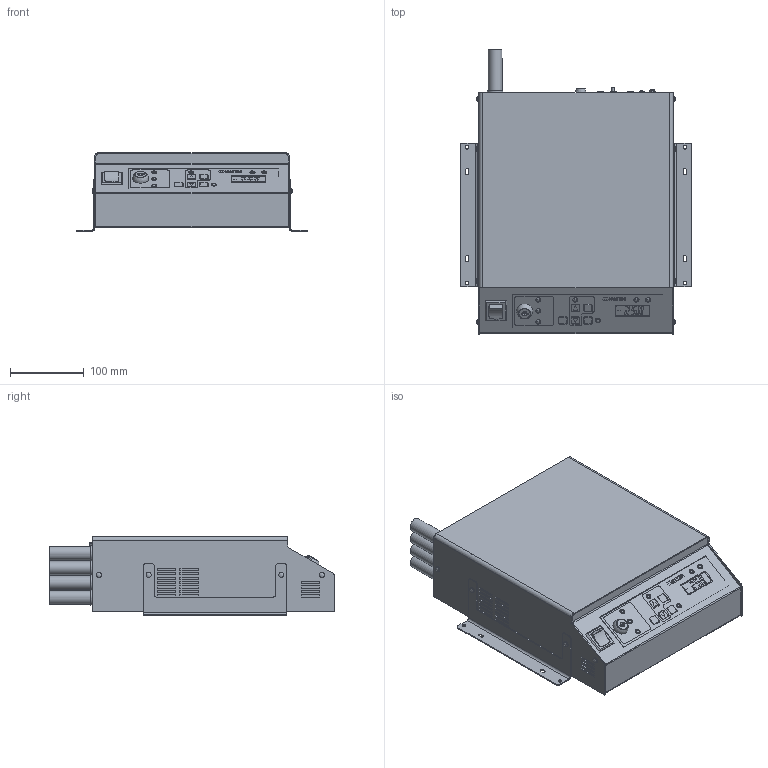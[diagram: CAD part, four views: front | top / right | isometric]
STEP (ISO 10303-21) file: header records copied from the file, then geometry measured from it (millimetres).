
FILE_DESCRIPTION(('Bauteilbeschreibung','HiCAD-Model','HiCAD-STEP-TRANSLATION','Bauteilbeschreibung'),'2;1');
FILE_NAME('ECM30-60.STP','2014-02-06T13:54:36+00:00',('Konstrukteur'),('Konstrukteur Firma GmbH'),' HiCAD 2011, Step 1600.0 ','HiCAD 2011','confidential');
FILE_SCHEMA(('AUTOMOTIVE_DESIGN { 1 2 10303 214 0 1 1 1 }'));
Length unit declared in the file: millimetre
Products named in the file (3): ECM30_60; ASSEMBLY; BRACKET
Assembly tree (2 placements, depth 2):
  ECM30_60
    ASSEMBLY
    BRACKET
Bounding box: 313.5 x 386.35 x 107 mm (x, y, z)
Volume: 504950.9 mm3; surface area: 629717.1 mm2
Topology: 14 solids, 17 shells, 1464 faces, 3839 edges, 2545 vertices
Faces by surface type: plane 709, cylinder 676, cone 29, torus 27, sphere 23
Full cylindrical faces by diameter (mm): 1.5 x25, 2.387 x4, 2.64 x13, 3 x2, 3.141 x3, 3.2 x1, 3.5 x2, 3.6 x1, 3.7 x8, 4 x8, 4.5 x1, 5 x12, 7 x13, 8.4 x2, 9 x1, 9.5 x4, 10.9 x1, 11 x1, 12 x4, 15.2 x1, 15.4 x1, 18.5 x4
Entity records: 62661 total; most frequent: CARTESIAN_POINT 8295, DIRECTION 7744, ORIENTED_EDGE 7242, EDGE_CURVE 3621, COLOUR_RGB 3574, PRESENTATION_STYLE_ASSIGNMENT 3574, OVER_RIDING_STYLED_ITEM 3572, CURVE_STYLE 3534
